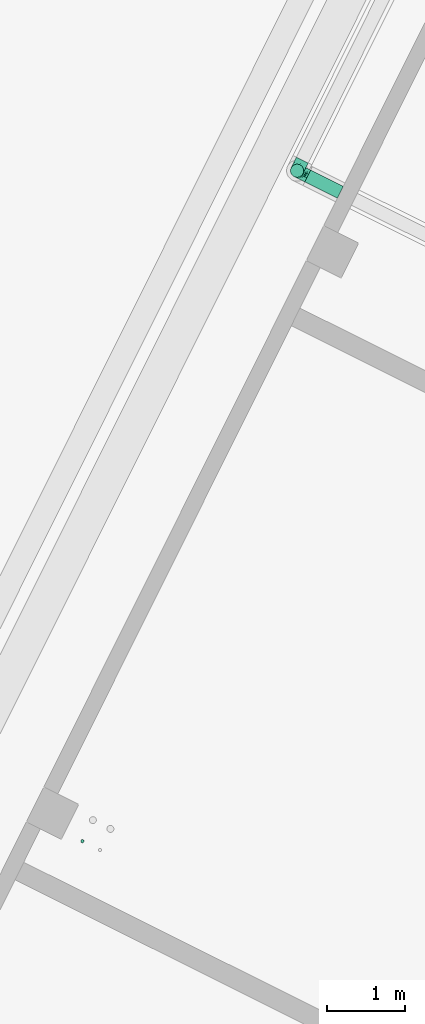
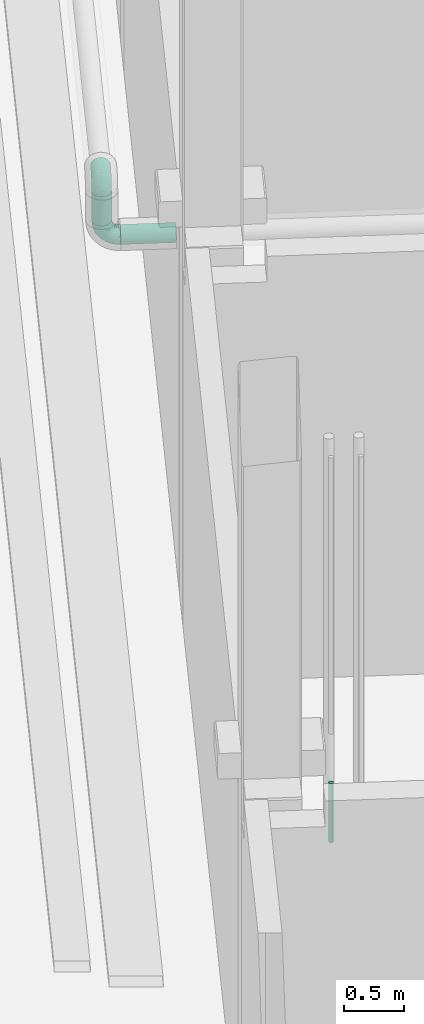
# One storey, part 71 of 91: 3 flow segments, 2 flow fittings.
"""IFC2X3 building model written with IfcOpenShell, lengths in metres."""

from ifc_helpers import new_model, entity, si_unit, converted_unit, derived_unit, direction, frame, origin, origin_2d_with_axis, place, context, subcontext, project, spatial, circle, extrude, faceted_brep, source, transform, mapped, type_object, type_shapes, element, save


model = new_model("IFC2X3")

# Units and contexts
model_context = context("Model", 3, precision=1e-05, world=origin(), true_north=direction((0.894925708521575, 0.446215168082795)))
context_of_model = context(None, 3, precision=1e-05, world=origin(), true_north=direction((0.894925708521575, 0.446215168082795)))
body_context = subcontext(model_context, "Body", "Model", "MODEL_VIEW")
ifc_project = project(units=[si_unit("LENGTHUNIT", "METRE"), si_unit("AREAUNIT", "SQUARE_METRE"), si_unit("VOLUMEUNIT", "CUBIC_METRE"), converted_unit("PLANEANGLEUNIT", "DEGREE", entity("IfcRatioMeasure", 0.0174532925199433), si_unit("PLANEANGLEUNIT", "RADIAN"), dimensions=[0, 0, 0, 0, 0, 0, 0]), si_unit("MASSUNIT", "GRAM", prefix="KILO"), si_unit("TIMEUNIT", "SECOND"), si_unit("FREQUENCYUNIT", "HERTZ"), si_unit("THERMODYNAMICTEMPERATUREUNIT", "DEGREE_CELSIUS"), derived_unit("THERMALTRANSMITTANCEUNIT", [(si_unit("MASSUNIT", "GRAM", prefix="KILO"), 1), (si_unit("THERMODYNAMICTEMPERATUREUNIT", "KELVIN"), -1), (si_unit("TIMEUNIT", "SECOND"), -3)]), derived_unit("VOLUMETRICFLOWRATEUNIT", [(si_unit("LENGTHUNIT", "METRE"), 3), (si_unit("TIMEUNIT", "SECOND"), -1)]), si_unit("ELECTRICCURRENTUNIT", "AMPERE"), si_unit("ELECTRICVOLTAGEUNIT", "VOLT"), si_unit("POWERUNIT", "WATT"), si_unit("FORCEUNIT", "NEWTON", prefix="KILO"), si_unit("ILLUMINANCEUNIT", "LUX"), si_unit("LUMINOUSFLUXUNIT", "LUMEN"), si_unit("LUMINOUSINTENSITYUNIT", "CANDELA"), si_unit("PRESSUREUNIT", "PASCAL")], contexts=[model_context, context_of_model])

# Site, building, storey
site_placement = place(None, frame((218.228324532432, 584.720189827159, 0.0), z_axis=(0.0, 0.0, 1.0), x_axis=(0.446215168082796, 0.894925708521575, 0.0)))
site = spatial("IfcSite", under=ifc_project, at=site_placement, Name="Default", CompositionType="ELEMENT")
building_placement = place(site_placement, origin())
building = spatial("IfcBuilding", under=site, at=building_placement, CompositionType="ELEMENT")
storey_placement = place(building_placement, origin())
storey = spatial("IfcBuildingStorey", under=building, at=storey_placement, Name="0 - Piano Terra", CompositionType="ELEMENT", Elevation=0.0)

# Flow segments
pipe_segment_type_1 = type_object("IfcPipeSegmentType", Name="Tubazione:Riscaldamento-Tubazione", PredefinedType="NOTDEFINED")
flow_segment_1_placement = place(storey_placement, frame((-36.2085851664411, -4.47094926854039, 3.452)))
element("IfcFlowSegment", 1, at=flow_segment_1_placement, inside=storey, type_object=pipe_segment_type_1, Name="Tubazione:Riscaldamento-Tubazione", ObjectType="Tubazione:Riscaldamento-Tubazione", context=body_context, shape_type="SweptSolid", body=[
    extrude(circle(Radius=0.0841375, at=origin_2d_with_axis()), frame((0.0857327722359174, 0.0857327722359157, 0.0), z_axis=(0.0, 0.0, 1.0), x_axis=(-1.0, 0.0, 0.0)), (0.0, 0.0, 1.0), 0.296000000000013),
])
flow_segment_2_placement = place(storey_placement, frame((-36.2085851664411, -5.0010789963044, 3.21426722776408)))
element("IfcFlowSegment", 2, at=flow_segment_2_placement, inside=storey, type_object=pipe_segment_type_1, Name="Tubazione:Riscaldamento-Tubazione", ObjectType="Tubazione:Riscaldamento-Tubazione", context=body_context, shape_type="SweptSolid", body=[
    extrude(circle(Radius=0.0841375, at=origin_2d_with_axis()), frame((0.0857327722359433, 0.0, 0.0857327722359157), z_axis=(0.0, 1.0, 0.0), x_axis=(1.0, 0.0, 0.0)), (0.0, 0.0, 1.0), 0.463862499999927),
])

# Flow fittings
pipe_fitting_type = type_object("IfcPipeFittingType", Name="Standard", PredefinedType="NOTDEFINED")
shared_shape = source(origin(), body_context, "Body", "Brep", [
    faceted_brep([(-0.151999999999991, 0.0, -0.0841500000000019), (-0.151999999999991, -0.0217796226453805, -0.081282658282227), (-0.151999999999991, -0.0420750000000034, -0.0728760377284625), (-0.151999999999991, -0.0595030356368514, -0.05950303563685), (-0.151999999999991, -0.0728760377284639, -0.0420750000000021), (-0.151999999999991, -0.0812826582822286, -0.0217796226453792), (-0.151999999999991, -0.0841500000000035, 0.0), (-0.151999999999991, -0.0812826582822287, 0.021779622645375), (-0.151999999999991, -0.0728760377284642, 0.0420749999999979), (-0.151999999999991, -0.0595030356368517, 0.0595030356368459), (-0.151999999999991, -0.0420750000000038, 0.0728760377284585), (-0.151999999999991, -0.021779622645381, 0.0812826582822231), (-0.151999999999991, 0.0, 0.0841499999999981), (-0.151999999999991, 0.0217796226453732, 0.0812826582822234), (-0.151999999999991, 0.0420749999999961, 0.0728760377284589), (-0.151999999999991, 0.0595030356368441, 0.0595030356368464), (-0.151999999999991, 0.0728760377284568, 0.0420749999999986), (-0.151999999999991, 0.0812826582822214, 0.0217796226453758), (-0.151999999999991, 0.0841499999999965, 0.0), (-0.151999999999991, 0.0812826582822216, -0.021779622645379), (-0.151999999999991, 0.072876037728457, -0.0420750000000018), (-0.151999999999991, 0.0595030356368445, -0.0595030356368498), (-0.151999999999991, 0.0420749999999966, -0.0728760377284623), (-0.151999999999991, 0.0217796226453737, -0.0812826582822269), (-0.0217796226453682, 0.151999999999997, -0.0812826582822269), (-0.0420749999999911, 0.151999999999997, -0.0728760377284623), (-0.059503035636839, 0.151999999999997, -0.0595030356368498), (-0.0728760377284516, 0.151999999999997, -0.0420750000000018), (-0.0812826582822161, 0.151999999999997, -0.021779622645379), (-0.084149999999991, 0.151999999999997, 0.0), (-0.081282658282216, 0.151999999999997, 0.0217796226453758), (-0.0728760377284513, 0.151999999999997, 0.0420749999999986), (-0.0595030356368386, 0.151999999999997, 0.0595030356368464), (-0.0420749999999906, 0.151999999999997, 0.0728760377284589), (-0.0217796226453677, 0.151999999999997, 0.0812826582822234), (0.0, 0.151999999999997, 0.0841499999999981), (0.0217796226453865, 0.151999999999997, 0.0812826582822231), (0.0420750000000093, 0.151999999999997, 0.0728760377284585), (0.0595030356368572, 0.151999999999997, 0.0595030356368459), (0.0728760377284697, 0.151999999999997, 0.0420749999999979), (0.0812826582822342, 0.151999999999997, 0.021779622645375), (0.084150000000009, 0.151999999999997, 0.0), (0.081282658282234, 0.151999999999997, -0.0217796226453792), (0.0728760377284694, 0.151999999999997, -0.0420750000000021), (0.0595030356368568, 0.151999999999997, -0.05950303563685), (0.0420750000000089, 0.151999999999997, -0.0728760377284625), (0.021779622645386, 0.151999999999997, -0.081282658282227), (0.0, 0.151999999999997, -0.0841500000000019), (-0.112295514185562, -0.0662348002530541, 0.0469763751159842), (-0.0998944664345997, -0.0498948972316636, 0.0623523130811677), (-0.0994516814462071, -0.078229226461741, 0.0), (0.0326295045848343, 0.00476288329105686, 0.0), (0.0139051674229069, -0.0139051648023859, 0.0159460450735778), (-0.00476288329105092, -0.0326295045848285, 0.0), (-0.104326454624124, -0.0750333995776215, 0.0261468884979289), (-0.113416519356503, 0.0105478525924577, 0.0839778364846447), (-0.10345101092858, 0.0347244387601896, 0.080327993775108), (-0.131471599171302, 0.0309707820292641, 0.0789057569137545), (-0.0309203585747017, -0.0471487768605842, 0.0225668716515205), (-0.0495383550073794, -0.0607637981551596, 0.0), (-0.0683222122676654, -0.0568785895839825, 0.0418314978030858), (-0.0660333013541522, -0.0644471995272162, 0.0231811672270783), (-0.0835793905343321, 0.116982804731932, 0.0378856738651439), (-0.026569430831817, 0.0183089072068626, 0.0781043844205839), (-0.0165432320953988, 0.0456685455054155, 0.0816880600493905), (-0.0428661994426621, 0.0321386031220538, 0.0835414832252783), (0.0470025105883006, 0.0693062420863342, 0.055217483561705), (0.056878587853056, 0.0683222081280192, 0.0418314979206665), (0.0662347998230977, 0.112295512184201, 0.0469763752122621), (-0.0880808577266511, 0.123149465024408, 0.0194495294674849), (-0.115041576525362, -0.0119238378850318, 0.0826074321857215), (0.049894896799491, 0.0998944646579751, 0.062352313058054), (-0.111156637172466, -0.0327211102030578, 0.0754895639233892), (-0.0752436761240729, -0.0325343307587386, 0.0692137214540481), (-0.00888418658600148, -0.0109985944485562, 0.053550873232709), (-0.00897555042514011, 0.00897554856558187, 0.0674865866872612), (-0.0444608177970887, -0.0301022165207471, 0.0595210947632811), (-0.109349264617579, 0.0934713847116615, 0.0273546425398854), (-0.128739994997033, 0.0797549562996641, 0.0359106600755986), (-0.12603492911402, 0.0893147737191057, 0.0), (0.0471487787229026, 0.0309203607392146, 0.022566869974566), (0.0371028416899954, 0.0305253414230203, 0.0422794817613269), (-0.0347244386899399, 0.103451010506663, 0.080327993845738), (-0.0262367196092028, 0.07490520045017, 0.0840302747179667), (-0.0105478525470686, 0.113416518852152, 0.0839778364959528), (-0.119941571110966, 0.0519254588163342, 0.0698578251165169), (-0.0833454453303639, 0.0610025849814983, 0.0750769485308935), (-0.0993800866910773, 0.0670387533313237, 0.0661104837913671), (-0.0522736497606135, 0.118034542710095, 0.0700368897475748), (-0.118528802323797, 0.069574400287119, 0.055744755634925), (0.0607637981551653, 0.0495383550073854, 0.0), (0.0327211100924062, 0.111156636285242, 0.075489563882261), (-0.0767637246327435, 0.0258413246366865, 0.0839946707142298), (0.0119238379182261, 0.115041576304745, 0.0826074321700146), (-0.102216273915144, 0.0876981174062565, 0.0456699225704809), (0.0782292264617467, 0.0994516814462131, 0.0), (0.0750333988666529, 0.104326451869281, 0.0261468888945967), (0.0651289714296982, 0.0654047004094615, 0.0199129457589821), (-0.0566549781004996, 0.0566549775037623, 0.0823814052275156), (-0.0309707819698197, 0.13147159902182, 0.0789057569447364), (-0.0673555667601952, 0.101601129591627, 0.0649639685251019), (-0.0687747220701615, 0.121637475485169, 0.0553217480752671), (-0.0893147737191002, 0.126034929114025, 0.0), (-0.104022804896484, 0.104022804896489, 0.0), (-0.0580913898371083, 0.0854184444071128, 0.0756364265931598), (0.00431503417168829, 0.0425180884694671, 0.0746493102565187), (0.00308445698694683, 0.0734448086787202, 0.0812650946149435), (-0.0693062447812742, -0.0470025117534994, 0.0552174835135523), (-0.085628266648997, 0.086263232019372, 0.0604079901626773), (-0.0414671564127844, 0.0784252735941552, 0.0819258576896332), (-0.0734448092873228, -0.00308445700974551, 0.0812650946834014), (-0.0305253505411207, -0.037102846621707, 0.0422794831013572), (-0.0426179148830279, -0.0109766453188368, 0.0715577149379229), (0.0222104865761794, 0.075179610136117, 0.0748796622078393), (0.0365396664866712, 0.0751083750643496, 0.0664604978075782), (0.0166895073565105, 0.014403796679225, 0.0525934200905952), (-0.0796442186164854, 0.0464469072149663, 0.0806466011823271), (0.00908607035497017, -0.00908606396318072, 0.036524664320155), (0.0301022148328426, 0.0444608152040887, 0.0595210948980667), (-0.119427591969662, 0.0520158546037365, -0.0699061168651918), (-0.110232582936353, 0.0332348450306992, -0.0799986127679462), (0.067303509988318, 0.127444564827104, -0.0486323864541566), (-0.119776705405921, 0.00991992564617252, -0.0839129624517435), (-0.109349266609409, 0.0934713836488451, -0.0273546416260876), (-0.118520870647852, 0.080425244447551, -0.0418904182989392), (-0.0824889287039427, 0.0176322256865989, -0.0841469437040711), (-0.042237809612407, 0.0404874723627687, -0.0840312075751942), (-0.0715643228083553, 0.0462238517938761, -0.0819502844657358), (-0.0269520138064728, -0.034464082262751, -0.0426985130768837), (-0.0323682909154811, -0.0463076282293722, -0.0273014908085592), (-0.0576003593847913, -0.052357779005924, -0.0416714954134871), (-0.00991992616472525, 0.119776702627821, -0.083912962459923), (-0.0332348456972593, 0.110232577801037, -0.0799986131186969), (-0.0929808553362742, 0.0517253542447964, -0.0762272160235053), (0.00399581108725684, 0.0640144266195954, -0.079667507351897), (0.00840813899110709, 0.0328778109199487, -0.0692544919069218), (-0.0236511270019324, 0.0236511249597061, -0.0788049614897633), (0.0635649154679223, 0.0943451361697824, -0.0449449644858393), (0.0647121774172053, 0.0698052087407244, -0.0267768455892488), (0.0523577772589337, 0.0576003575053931, -0.0416714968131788), (-0.132110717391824, 0.0669080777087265, -0.0539090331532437), (-0.110166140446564, -0.0759227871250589, -0.0269132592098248), (-0.127444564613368, -0.067303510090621, -0.0486323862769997), (-0.0698052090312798, -0.0647121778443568, -0.0267768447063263), (0.00867466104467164, -0.00867466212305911, -0.037708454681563), (0.0160110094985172, 0.0156079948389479, -0.0541609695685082), (0.0347671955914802, 0.027256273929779, -0.0425577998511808), (-0.109085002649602, -0.0511074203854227, -0.0631726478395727), (0.0138015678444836, -0.0138015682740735, -0.0166872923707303), (-0.0734094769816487, 0.10741660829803, -0.0572817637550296), (-0.0938460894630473, 0.0941329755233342, -0.0467626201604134), (-0.0824977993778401, 0.119740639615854, -0.0374121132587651), (0.0203075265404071, 0.0628849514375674, -0.0729261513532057), (-0.127855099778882, -0.0335932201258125, -0.0764538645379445), (-0.111254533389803, -0.0115586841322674, -0.0825049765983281), (-0.054595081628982, -0.037464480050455, -0.0579290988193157), (-0.0943451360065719, -0.0635649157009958, -0.0449449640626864), (0.0463076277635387, 0.0323682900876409, -0.0273014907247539), (-0.0879480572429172, 0.123581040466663, -0.0192162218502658), (-0.0520158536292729, 0.119427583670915, -0.0699061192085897), (-0.0668704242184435, 0.132433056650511, -0.053865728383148), (0.0759227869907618, 0.11016614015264, -0.0269132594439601), (-0.094035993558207, 0.0671599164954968, -0.0682327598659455), (-0.0852711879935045, 0.0856897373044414, -0.0610386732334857), (-0.0723785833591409, 0.0723785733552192, -0.0743572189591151), (0.0511074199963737, 0.109085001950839, -0.0631726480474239), (0.0335932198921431, 0.127855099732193, -0.0764538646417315), (0.0115586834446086, 0.111254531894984, -0.0825049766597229), (0.0304569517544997, 0.0950501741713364, -0.0744944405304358), (-0.0587965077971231, -0.0231830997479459, -0.0701791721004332), (-0.0640144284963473, -0.0039958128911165, -0.0796675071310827), (-0.0253392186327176, -0.00591217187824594, -0.0673625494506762), (-0.0950501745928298, -0.0304569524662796, -0.0744944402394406), (0.0374644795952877, 0.0545950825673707, -0.0579290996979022), (-0.0176322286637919, 0.082488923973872, -0.0841469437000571), (-0.0469951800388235, 0.0749575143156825, -0.081286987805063), (-0.0651507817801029, 0.0957840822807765, -0.0687360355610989), (-0.0548517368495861, 0.0878796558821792, -0.0762491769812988), (-0.0117403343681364, -0.0138595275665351, -0.0531816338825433), (-0.106904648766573, 0.0736247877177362, -0.0573538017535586)], [[[0, 1, 2, 3, 4, 5, 6, 7, 8, 9, 10, 11, 12, 13, 14, 15, 16, 17, 18, 19, 20, 21, 22, 23]], [[24, 25, 26, 27, 28, 29, 30, 31, 32, 33, 34, 35, 36, 37, 38, 39, 40, 41, 42, 43, 44, 45, 46, 47]], [[9, 48, 49]], [[7, 6, 50]], [[51, 52, 53]], [[54, 8, 7]], [[50, 54, 7]], [[55, 56, 57]], [[8, 48, 9]], [[58, 59, 53]], [[60, 54, 61]], [[58, 60, 61]], [[9, 49, 10]], [[62, 31, 30]], [[63, 64, 65]], [[66, 67, 68]], [[30, 69, 62]], [[11, 70, 12]], [[71, 38, 37]], [[14, 13, 57]], [[10, 49, 72]], [[49, 73, 72]], [[74, 75, 76]], [[77, 17, 78]], [[17, 79, 18]], [[79, 17, 77]], [[80, 67, 81]], [[82, 83, 84]], [[85, 86, 87]], [[33, 32, 88]], [[85, 89, 15]], [[80, 51, 90]], [[71, 37, 91]], [[56, 55, 92]], [[93, 36, 35]], [[78, 94, 77]], [[95, 40, 96]], [[95, 96, 97]], [[83, 98, 65]], [[35, 34, 84]], [[34, 99, 84]], [[96, 40, 39]], [[71, 66, 68]], [[39, 38, 68]], [[94, 62, 77]], [[67, 80, 97]], [[100, 88, 101]], [[40, 95, 41]], [[15, 14, 85]], [[68, 96, 39]], [[56, 86, 85]], [[29, 102, 69]], [[15, 89, 16]], [[77, 69, 103]], [[78, 17, 16]], [[77, 103, 79]], [[61, 50, 59]], [[101, 88, 32]], [[69, 77, 62]], [[82, 88, 104]], [[91, 37, 36]], [[10, 72, 11]], [[64, 105, 106]], [[88, 82, 99]], [[99, 34, 33]], [[49, 48, 107]], [[48, 54, 60]], [[97, 80, 90]], [[32, 31, 101]], [[13, 12, 55]], [[108, 86, 104]], [[83, 109, 98]], [[93, 84, 106]], [[70, 55, 12]], [[110, 65, 92]], [[60, 58, 111]], [[76, 112, 73]], [[91, 113, 114]], [[75, 74, 115]], [[49, 107, 73]], [[70, 72, 110]], [[93, 91, 36]], [[106, 105, 113]], [[57, 85, 14]], [[116, 98, 86]], [[31, 62, 101]], [[108, 101, 62]], [[54, 48, 8]], [[48, 60, 107]], [[71, 68, 38]], [[96, 68, 67]], [[109, 104, 98]], [[89, 87, 108]], [[84, 93, 35]], [[93, 106, 113]], [[72, 70, 11]], [[55, 70, 110]], [[98, 116, 92]], [[106, 84, 83]], [[110, 112, 63]], [[83, 65, 64]], [[52, 58, 53]], [[111, 76, 107]], [[67, 66, 81]], [[52, 80, 117]], [[110, 92, 55]], [[98, 92, 65]], [[104, 88, 100]], [[98, 104, 86]], [[112, 76, 75]], [[110, 72, 73]], [[63, 112, 75]], [[110, 73, 112]], [[63, 75, 105]], [[110, 63, 65]], [[75, 118, 105]], [[113, 91, 93]], [[105, 118, 113]], [[118, 66, 114]], [[16, 89, 78]], [[94, 89, 108]], [[89, 94, 78]], [[62, 94, 108]], [[105, 64, 63]], [[83, 64, 106]], [[58, 117, 111]], [[74, 111, 117]], [[115, 81, 118]], [[117, 80, 81]], [[80, 52, 51]], [[58, 52, 117]], [[88, 99, 33]], [[84, 99, 82]], [[55, 57, 13]], [[85, 57, 56]], [[29, 69, 30]], [[69, 102, 103]], [[111, 107, 60]], [[73, 107, 76]], [[111, 74, 76]], [[117, 81, 115]], [[75, 115, 118]], [[117, 115, 74]], [[114, 66, 71]], [[81, 66, 118]], [[91, 114, 71]], [[118, 114, 113]], [[101, 108, 100]], [[104, 100, 108]], [[86, 56, 116]], [[92, 116, 56]], [[85, 87, 89]], [[86, 108, 87]], [[83, 82, 109]], [[104, 109, 82]], [[50, 61, 54]], [[59, 58, 61]], [[95, 97, 90]], [[67, 97, 96]], [[22, 119, 120]], [[121, 44, 43]], [[0, 23, 122]], [[19, 123, 124]], [[122, 120, 125]], [[126, 125, 127]], [[18, 79, 19]], [[128, 129, 130]], [[19, 79, 123]], [[24, 131, 132]], [[119, 133, 120]], [[134, 135, 136]], [[137, 138, 139]], [[20, 140, 21]], [[141, 4, 142]], [[143, 50, 141]], [[50, 6, 5]], [[144, 145, 146]], [[147, 3, 2]], [[129, 143, 130]], [[129, 144, 148]], [[149, 150, 151]], [[135, 134, 152]], [[141, 5, 4]], [[2, 153, 147]], [[154, 1, 0]], [[155, 156, 147]], [[2, 1, 153]], [[157, 90, 51]], [[123, 150, 124]], [[103, 123, 79]], [[156, 143, 141]], [[151, 158, 28]], [[25, 132, 159]], [[28, 158, 29]], [[27, 160, 151]], [[43, 42, 161]], [[27, 26, 160]], [[162, 163, 164]], [[45, 44, 165]], [[166, 167, 46]], [[165, 168, 166]], [[169, 170, 171]], [[131, 24, 47]], [[51, 148, 157]], [[26, 25, 159]], [[125, 120, 127]], [[46, 45, 166]], [[157, 139, 138]], [[53, 59, 129]], [[24, 132, 25]], [[3, 142, 4]], [[148, 51, 53]], [[154, 172, 153]], [[168, 165, 173]], [[28, 27, 151]], [[41, 95, 42]], [[172, 154, 170]], [[120, 133, 127]], [[161, 137, 121]], [[46, 167, 47]], [[167, 134, 174]], [[135, 171, 136]], [[120, 23, 22]], [[164, 175, 127]], [[102, 158, 103]], [[159, 176, 149]], [[22, 21, 119]], [[138, 137, 161]], [[149, 163, 150]], [[158, 102, 29]], [[121, 165, 44]], [[173, 165, 137]], [[134, 167, 168]], [[131, 167, 174]], [[152, 173, 135]], [[134, 136, 126]], [[42, 95, 161]], [[138, 95, 90]], [[155, 147, 172]], [[142, 147, 156]], [[122, 154, 0]], [[125, 126, 170]], [[125, 170, 154]], [[170, 136, 171]], [[130, 143, 156]], [[50, 5, 141]], [[140, 119, 21]], [[133, 162, 164]], [[175, 164, 177]], [[160, 159, 149]], [[173, 145, 135]], [[145, 178, 171]], [[171, 135, 145]], [[171, 155, 169]], [[120, 122, 23]], [[154, 122, 125]], [[167, 131, 47]], [[132, 131, 174]], [[95, 138, 161]], [[90, 157, 138]], [[129, 59, 143]], [[50, 143, 59]], [[177, 164, 176]], [[126, 136, 170]], [[175, 126, 127]], [[134, 126, 174]], [[132, 174, 175]], [[126, 175, 174]], [[173, 139, 146]], [[145, 144, 178]], [[128, 144, 129]], [[155, 171, 178]], [[146, 139, 157]], [[173, 137, 139]], [[144, 146, 157]], [[173, 146, 145]], [[156, 155, 130]], [[128, 155, 178]], [[155, 128, 130]], [[144, 128, 178]], [[124, 150, 179]], [[123, 151, 150]], [[140, 124, 179]], [[19, 124, 20]], [[151, 123, 158]], [[103, 158, 123]], [[162, 119, 179]], [[127, 133, 164]], [[119, 162, 133]], [[163, 162, 179]], [[150, 163, 179]], [[163, 149, 176]], [[129, 148, 53]], [[157, 148, 144]], [[124, 140, 20]], [[119, 140, 179]], [[159, 160, 26]], [[151, 160, 149]], [[165, 166, 45]], [[167, 166, 168]], [[161, 121, 43]], [[165, 121, 137]], [[154, 153, 1]], [[147, 153, 172]], [[147, 142, 3]], [[141, 142, 156]], [[159, 132, 177]], [[163, 176, 164]], [[159, 177, 176]], [[132, 175, 177]], [[134, 168, 152]], [[173, 152, 168]], [[155, 172, 169]], [[170, 169, 172]]]),
])
type_shapes(pipe_fitting_type, [shared_shape])
for number, where, z_axis, x_axis, name in (
    (3, (-36.1228523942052, -4.38521649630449, 3.30000000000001), (1.0, 0.0, 0.0), (0.0, 1.0, 0.0), "M_Gomito - Saldato - Generico:Standard"),
    (4, (-36.1228523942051, -4.38521649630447, 3.9), (0.0, -1.0, 0.0), (-1.0, 0.0, 0.0), "M_Gomito - Saldato - Generico:Standard"),
):
    element("IfcFlowFitting", number, at=place(storey_placement, frame(where, z_axis=z_axis, x_axis=x_axis)), inside=storey, type_object=pipe_fitting_type, Name=name, ObjectType="Standard", context=body_context, shape_type="MappedRepresentation", body=[
        mapped(shared_shape, transform((0.0, 0.0, 0.0), scale=1.0)),
    ])

# Flow segment
pipe_segment_type_2 = type_object("IfcPipeSegmentType", Name="Tubazione:Antincendio-Tubazione", PredefinedType="NOTDEFINED")
flow_segment_3_placement = place(storey_placement, frame((-45.0233431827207, -5.77375626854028, 3.30000000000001)))
element("IfcFlowSegment", 5, at=flow_segment_3_placement, inside=storey, type_object=pipe_segment_type_2, Name="Tubazione:Antincendio-Tubazione", ObjectType="Tubazione:Antincendio-Tubazione", context=body_context, shape_type="SweptSolid", body=[
    extrude(circle(Radius=0.021082, at=origin_2d_with_axis()), frame((0.0226772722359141, 0.0226772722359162, 0.0)), (0.0, 0.0, 1.0), 0.6),
])

save(model, "model.ifc")
